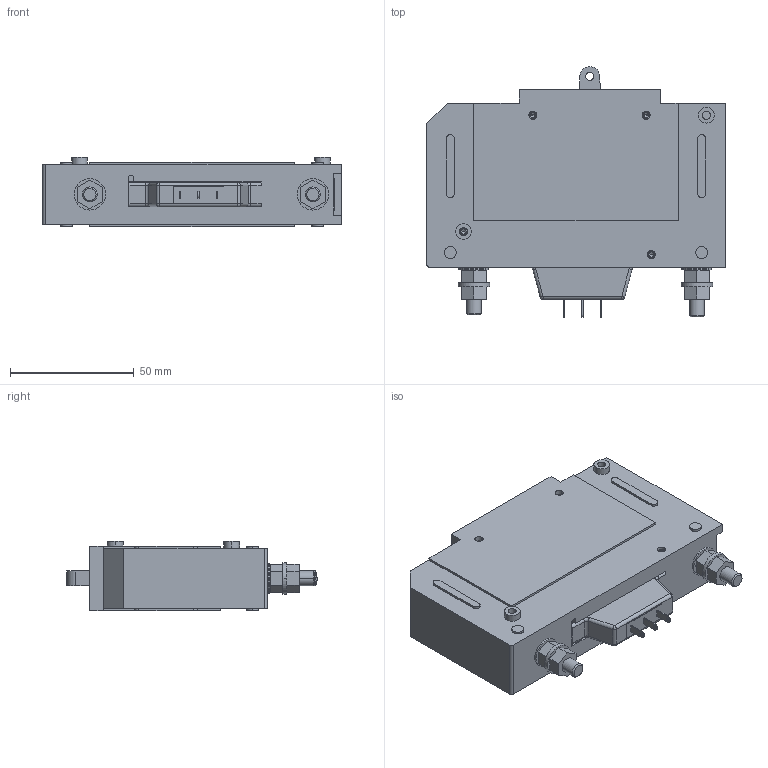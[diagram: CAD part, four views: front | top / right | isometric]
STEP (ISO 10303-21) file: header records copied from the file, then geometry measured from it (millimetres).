
FILE_DESCRIPTION((''),'2;1');
FILE_NAME('ER1-430-24-B-A1-2-BB-_SW0001','2012-08-21T',('danboyden'),(''),'PRO/ENGINEER BY PARAMETRIC TECHNOLOGY CORPORATION, 2010280','PRO/ENGINEER BY PARAMETRIC TECHNOLOGY CORPORATION, 2010280','');
FILE_SCHEMA(('CONFIG_CONTROL_DESIGN'));
Length unit declared in the file: inch
Products named in the file (1): ER1-430-24-B-A1-2-BB-_SW0001
Bounding box: 120.65 x 101.4 x 27.97 mm (x, y, z)
Volume: 203360.8 mm3; surface area: 41224.2 mm2
Topology: 4 solids, 4 shells, 655 faces, 1756 edges, 1144 vertices
Faces by surface type: plane 389, cylinder 162, bspline 72, sphere 14, cone 12, torus 6
Entity records: 21711 total; most frequent: CARTESIAN_POINT 5193, ORIENTED_EDGE 3476, DIRECTION 3285, EDGE_CURVE 1738, VECTOR 1357, LINE 1357, VERTEX_POINT 1144, AXIS2_PLACEMENT_3D 964
